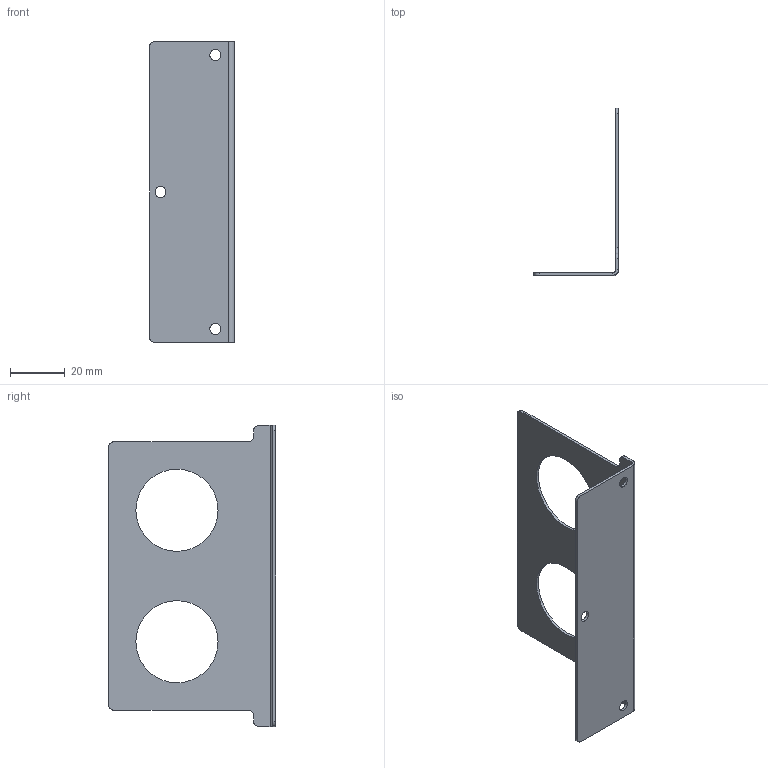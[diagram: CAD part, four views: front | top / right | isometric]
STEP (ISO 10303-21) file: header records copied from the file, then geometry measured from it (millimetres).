
FILE_DESCRIPTION (( 'STEP AP214' ), '1' );
FILE_NAME ('JYXJ-000-005-005-A 揖楷盓殤3.STEP', '2025-06-19T08:49:58', ( '' ), ( '' ), 'SwSTEP 2.0', 'SolidWorks 2020', '' );
FILE_SCHEMA (( 'AUTOMOTIVE_DESIGN' ));
Length unit declared in the file: millimetre
Products named in the file (1): JYXJ-000-005-005-A 揖楷盓殤3
Bounding box: 31 x 61 x 110 mm (x, y, z)
Volume: 7848.3 mm3; surface area: 16316.7 mm2
Topology: 1 solids, 1 shells, 36 faces, 94 edges, 60 vertices
Faces by surface type: cylinder 20, plane 16
Entity records: 1168 total; most frequent: DIRECTION 208, CARTESIAN_POINT 191, ORIENTED_EDGE 188, EDGE_CURVE 94, AXIS2_PLACEMENT_3D 77, VERTEX_POINT 60, LINE 54, VECTOR 54
